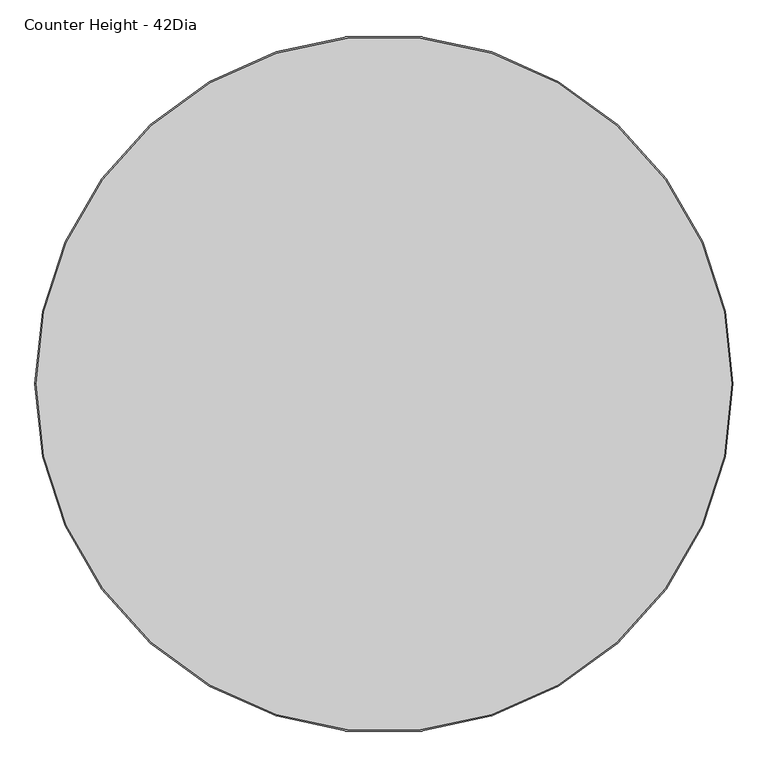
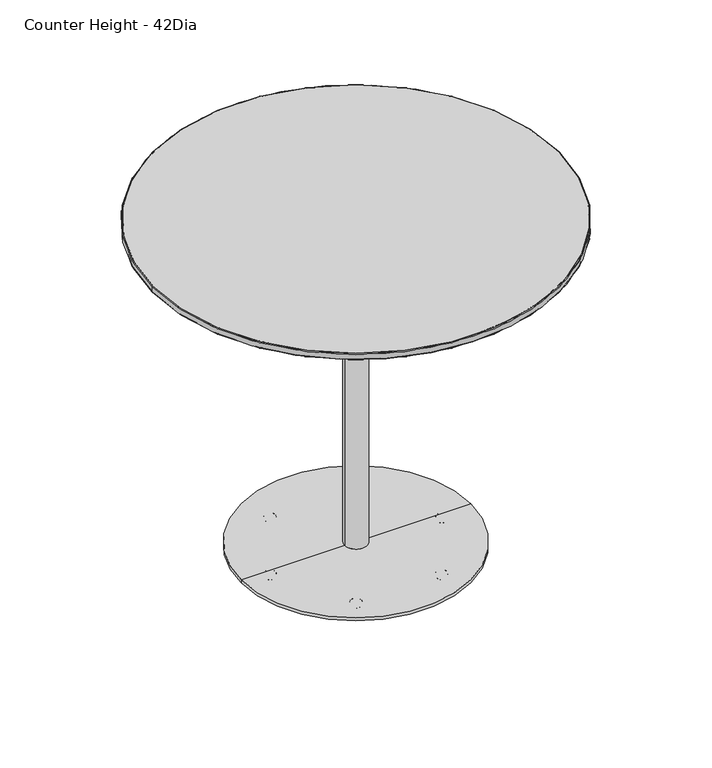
"""IFC4 building model written with IfcOpenShell, lengths in millimetres: furniture geometry, Coalesse_AM_Table_Occasional_Montara650Table_CafeHeight_Round : Counter Height - 42Dia."""

from ifc_helpers import new_model, si_unit, point, frame, origin, origin_with_axes, origin_2d, place, context, project, spatial, polyline, circle_curve, ellipse_curve, trimmed, segment, composite_curve, outline, extrude, source, transform, mapped, element, save
from ifc_brep_helpers import plane_surface, cylinder_surface, revolved_surface, advanced_brep


def counter_height_42dia_a2212860(model_context):
    return source(origin(), model_context, "Body", "SolidModel", [
        advanced_brep(
        [(112.3723043, -195.0325848, 0.0), (119.7149467, -202.3752273, 0.0), (105.0296619, -187.6899424, 0.0), (120.2614489, -202.9217294, 0.5718943), (104.4831597, -187.1434403, 0.5718943), (122.560548, -205.2208285, 11.2068005), (102.1840606, -184.8443412, 11.2068005), (122.1455272, -204.8058077, 11.9999882), (102.5990814, -185.259362, 11.9999882), (112.3723043, -195.0325848, 11.9999882)],
        [
            (0, 1),
            (1, 2, circle_curve(frame((112.3723043, -195.0325848, 0.0), z_axis=(0.0, 0.0, -1.0), x_axis=(0.7071067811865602, -0.7071067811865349, 0.0)), 10.3840645)),
            (2, 0),
            (2, 1, circle_curve(frame((112.3723043, -195.0325848, 0.0), z_axis=(0.0, 0.0, -1.0), x_axis=(0.7071067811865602, -0.7071067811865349, 0.0)), 10.3840645)),
            (1, 3, circle_curve(frame((119.7149467, -202.3752273, 0.8081846), z_axis=(-0.7071067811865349, -0.7071067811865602, 0.0), x_axis=(0.7071067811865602, -0.7071067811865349, 0.0)), 0.8081846)),
            (3, 4, circle_curve(frame((112.3723043, -195.0325848, 0.5718943), z_axis=(0.0, 0.0, -1.0), x_axis=(0.7071067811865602, -0.7071067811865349, 0.0)), 11.1569353)),
            (4, 2, circle_curve(frame((105.0296619, -187.6899424, 0.8081846), z_axis=(-0.7071067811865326, -0.7071067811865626, 0.0), x_axis=(-0.7071067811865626, 0.7071067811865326, 0.0)), 0.8081846)),
            (4, 3, circle_curve(frame((112.3723043, -195.0325848, 0.5718943), z_axis=(0.0, 0.0, -1.0), x_axis=(0.7071067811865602, -0.7071067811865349, 0.0)), 11.1569353)),
            (3, 5),
            (5, 6, circle_curve(frame((112.3723043, -195.0325848, 11.2068005), z_axis=(0.0, 0.0, -1.0), x_axis=(0.7071067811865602, -0.7071067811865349, 0.0)), 14.4083524)),
            (6, 4),
            (6, 5, circle_curve(frame((112.3723043, -195.0325848, 11.2068005), z_axis=(0.0, 0.0, -1.0), x_axis=(0.7071067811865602, -0.7071067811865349, 0.0)), 14.4083524)),
            (5, 7, circle_curve(frame((122.1455272, -204.8058077, 11.3862424), z_axis=(-0.7071067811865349, -0.7071067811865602, 0.0), x_axis=(0.7071067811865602, -0.7071067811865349, 0.0)), 0.6137458)),
            (7, 8, circle_curve(frame((112.3723043, -195.0325848, 11.9999882), z_axis=(0.0, 0.0, -1.0), x_axis=(0.7071067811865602, -0.7071067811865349, 0.0)), 13.8214243)),
            (8, 6, circle_curve(frame((102.5990814, -185.259362, 11.3862424), z_axis=(-0.7071067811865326, -0.7071067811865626, 0.0), x_axis=(-0.7071067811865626, 0.7071067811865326, 0.0)), 0.6137458)),
            (8, 7, circle_curve(frame((112.3723043, -195.0325848, 11.9999882), z_axis=(0.0, 0.0, -1.0), x_axis=(0.7071067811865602, -0.7071067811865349, 0.0)), 13.8214243)),
            (7, 9),
            (9, 8),
        ],
        [
            plane_surface(frame((112.3723043, -195.0325848, 0.0), z_axis=(0.0, 0.0, -1.0000000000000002), x_axis=(0.7071067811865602, -0.7071067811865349, 0.0))),
            revolved_surface(trimmed(ellipse_curve(frame((119.7149467, -202.3752273, 0.8081846), z_axis=(0.7071067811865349, 0.7071067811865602, 0.0), x_axis=(0.7071067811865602, -0.7071067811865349, 0.0)), 0.8081846, 0.8081846), [point((120.2614489, -202.9217294, 0.5718943))], [point((119.7149467, -202.3752273, 0.0))], True, "CARTESIAN"), (112.3723043, -195.0325848, 12.2086845), (0.0, 0.0, -1.0)),
            revolved_surface(polyline([(122.560548, -205.2208285, 11.2068005), (120.2614489, -202.9217294, 0.5718943)]), (112.3723043, -195.0325848, 12.2086845), (0.0, 0.0, -1.0)),
            revolved_surface(trimmed(ellipse_curve(frame((122.1455272, -204.8058077, 11.3862424), z_axis=(0.7071067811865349, 0.7071067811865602, 0.0), x_axis=(0.7071067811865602, -0.7071067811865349, 0.0)), 0.6137458, 0.6137458), [point((122.1455272, -204.8058077, 11.9999882))], [point((122.560548, -205.2208285, 11.2068005))], True, "CARTESIAN"), (112.3723043, -195.0325848, 12.2086845), (0.0, 0.0, -1.0)),
            plane_surface(frame((112.3723043, -195.0325848, 11.9999882), z_axis=(0.0, 0.0, 1.0000000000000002), x_axis=(0.7071067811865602, -0.7071067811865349, 0.0))),
        ],
        [
            (0, [[1, 2, 3]]),
            (0, [[-3, 4, -1]]),
            (1, [[-2, 5, 6, 7]]),
            (1, [[-4, -7, 8, -5]]),
            (2, [[-6, 9, 10, 11]]),
            (2, [[-8, -11, 12, -9]]),
            (3, [[-10, 13, 14, 15]]),
            (3, [[-12, -15, 16, -13]]),
            (4, [[-14, 17, 18]]),
            (4, [[-16, -18, -17]]),
        ],
    ),
        advanced_brep(
        [(-104.9597041, -187.5851027, 0.0), (-119.6449889, -202.2703876, 0.0), (-112.3023465, -194.9277451, 0.0), (-104.4132019, -187.0386006, 0.5718943), (-120.1914911, -202.8168897, 0.5718943), (-102.1141028, -184.7395015, 11.2068005), (-122.4905902, -205.1159888, 11.2068005), (-102.5291236, -185.1545223, 11.9999882), (-122.0755694, -204.700968, 11.9999882), (-112.3023465, -194.9277451, 11.9999882)],
        [
            (0, 1, circle_curve(frame((-112.3023465, -194.9277451, 0.0), z_axis=(0.0, 0.0, -1.0), x_axis=(-0.7071067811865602, -0.7071067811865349, 0.0)), 10.3840645)),
            (1, 2),
            (2, 0),
            (1, 0, circle_curve(frame((-112.3023465, -194.9277451, 0.0), z_axis=(0.0, 0.0, -1.0), x_axis=(-0.7071067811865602, -0.7071067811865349, 0.0)), 10.3840645)),
            (3, 4, circle_curve(frame((-112.3023465, -194.9277451, 0.5718943), z_axis=(0.0, 0.0, -1.0), x_axis=(-0.7071067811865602, -0.7071067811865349, 0.0)), 11.1569353)),
            (4, 1, circle_curve(frame((-119.6449889, -202.2703876, 0.8081846), z_axis=(0.7071067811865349, -0.7071067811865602, 0.0), x_axis=(-0.7071067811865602, -0.7071067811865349, 0.0)), 0.8081846)),
            (0, 3, circle_curve(frame((-104.9597041, -187.5851027, 0.8081846), z_axis=(0.7071067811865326, -0.7071067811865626, 0.0), x_axis=(0.7071067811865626, 0.7071067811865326, 0.0)), 0.8081846)),
            (4, 3, circle_curve(frame((-112.3023465, -194.9277451, 0.5718943), z_axis=(0.0, 0.0, -1.0), x_axis=(-0.7071067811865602, -0.7071067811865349, 0.0)), 11.1569353)),
            (5, 6, circle_curve(frame((-112.3023465, -194.9277451, 11.2068005), z_axis=(0.0, 0.0, -1.0), x_axis=(-0.7071067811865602, -0.7071067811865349, 0.0)), 14.4083524)),
            (6, 4),
            (3, 5),
            (6, 5, circle_curve(frame((-112.3023465, -194.9277451, 11.2068005), z_axis=(0.0, 0.0, -1.0), x_axis=(-0.7071067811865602, -0.7071067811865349, 0.0)), 14.4083524)),
            (7, 8, circle_curve(frame((-112.3023465, -194.9277451, 11.9999882), z_axis=(0.0, 0.0, -1.0), x_axis=(-0.7071067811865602, -0.7071067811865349, 0.0)), 13.8214243)),
            (8, 6, circle_curve(frame((-122.0755694, -204.700968, 11.3862424), z_axis=(0.7071067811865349, -0.7071067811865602, 0.0), x_axis=(-0.7071067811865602, -0.7071067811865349, 0.0)), 0.6137458)),
            (5, 7, circle_curve(frame((-102.5291236, -185.1545223, 11.3862424), z_axis=(0.7071067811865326, -0.7071067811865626, 0.0), x_axis=(0.7071067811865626, 0.7071067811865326, 0.0)), 0.6137458)),
            (8, 7, circle_curve(frame((-112.3023465, -194.9277451, 11.9999882), z_axis=(0.0, 0.0, -1.0), x_axis=(-0.7071067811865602, -0.7071067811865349, 0.0)), 13.8214243)),
            (9, 8),
            (7, 9),
        ],
        [
            plane_surface(frame((-112.3023465, -194.9277451, 0.0), z_axis=(0.0, 0.0, -1.0000000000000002), x_axis=(-0.7071067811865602, -0.7071067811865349, 0.0))),
            revolved_surface(trimmed(ellipse_curve(frame((-119.6449889, -202.2703876, 0.8081846), z_axis=(-0.7071067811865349, 0.7071067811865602, 0.0), x_axis=(-0.7071067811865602, -0.7071067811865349, 0.0)), 0.8081846, 0.8081846), [point((-119.6449889, -202.2703876, 0.0))], [point((-120.1914911, -202.8168897, 0.5718943))], True, "CARTESIAN"), (-112.3023465, -194.9277451, 12.2086845), (0.0, 0.0, 1.0)),
            revolved_surface(polyline([(-120.1914911, -202.8168897, 0.5718943), (-122.4905902, -205.1159888, 11.2068005)]), (-112.3023465, -194.9277451, 12.2086845), (0.0, 0.0, 1.0)),
            revolved_surface(trimmed(ellipse_curve(frame((-122.0755694, -204.700968, 11.3862424), z_axis=(-0.7071067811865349, 0.7071067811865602, 0.0), x_axis=(-0.7071067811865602, -0.7071067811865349, 0.0)), 0.6137458, 0.6137458), [point((-122.4905902, -205.1159888, 11.2068005))], [point((-122.0755694, -204.700968, 11.9999882))], True, "CARTESIAN"), (-112.3023465, -194.9277451, 12.2086845), (0.0, 0.0, 1.0)),
            plane_surface(frame((-112.3023465, -194.9277451, 11.9999882), z_axis=(0.0, 0.0, 1.0000000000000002), x_axis=(-0.7071067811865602, -0.7071067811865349, 0.0))),
        ],
        [
            (0, [[1, 2, 3]]),
            (0, [[4, -3, -2]]),
            (1, [[5, 6, -1, 7]]),
            (1, [[8, -7, -4, -6]]),
            (2, [[9, 10, -5, 11]]),
            (2, [[12, -11, -8, -10]]),
            (3, [[13, 14, -9, 15]]),
            (3, [[16, -15, -12, -14]]),
            (4, [[17, -13, 18]]),
            (4, [[-18, -16, -17]]),
        ],
    ),
        advanced_brep(
        [(-112.055175, -184.4898776, 0.0), (-112.055175, -205.2580066, 0.0), (-112.055175, -194.8739421, 0.0), (-112.055175, -183.7170068, 0.5718943), (-112.055175, -206.0308773, 0.5718943), (-112.055175, -180.4655897, 11.2068005), (-112.055175, -209.2822944, 11.2068005), (-112.055175, -181.0525177, 11.9999882), (-112.055175, -208.6953664, 11.9999882), (-112.055175, -194.8739421, 11.9999882)],
        [
            (0, 1, circle_curve(frame((-112.055175, -194.8739421, 0.0), z_axis=(0.0, 0.0, -1.0), x_axis=(0.0, -1.0, 0.0)), 10.3840645)),
            (1, 2),
            (2, 0),
            (1, 0, circle_curve(frame((-112.055175, -194.8739421, 0.0), z_axis=(0.0, 0.0, -1.0), x_axis=(0.0, -1.0, 0.0)), 10.3840645)),
            (3, 4, circle_curve(frame((-112.055175, -194.8739421, 0.5718943), z_axis=(0.0, 0.0, -1.0), x_axis=(0.0, -1.0, 0.0)), 11.1569353)),
            (4, 1, circle_curve(frame((-112.055175, -205.2580066, 0.8081846), z_axis=(1.0, 0.0, 0.0), x_axis=(0.0, -1.0, 0.0)), 0.8081846)),
            (0, 3, circle_curve(frame((-112.055175, -184.4898776, 0.8081846), z_axis=(1.0, 0.0, 0.0), x_axis=(0.0, 1.0, 0.0)), 0.8081846)),
            (4, 3, circle_curve(frame((-112.055175, -194.8739421, 0.5718943), z_axis=(0.0, 0.0, -1.0), x_axis=(0.0, -1.0, 0.0)), 11.1569353)),
            (5, 6, circle_curve(frame((-112.055175, -194.8739421, 11.2068005), z_axis=(0.0, 0.0, -1.0), x_axis=(0.0, -1.0, 0.0)), 14.4083524)),
            (6, 4),
            (3, 5),
            (6, 5, circle_curve(frame((-112.055175, -194.8739421, 11.2068005), z_axis=(0.0, 0.0, -1.0), x_axis=(0.0, -1.0, 0.0)), 14.4083524)),
            (7, 8, circle_curve(frame((-112.055175, -194.8739421, 11.9999882), z_axis=(0.0, 0.0, -1.0), x_axis=(0.0, -1.0, 0.0)), 13.8214243)),
            (8, 6, circle_curve(frame((-112.055175, -208.6953664, 11.3862424), z_axis=(1.0, 0.0, 0.0), x_axis=(0.0, -1.0, 0.0)), 0.6137458)),
            (5, 7, circle_curve(frame((-112.055175, -181.0525177, 11.3862424), z_axis=(1.0, 0.0, 0.0), x_axis=(0.0, 1.0, 0.0)), 0.6137458)),
            (8, 7, circle_curve(frame((-112.055175, -194.8739421, 11.9999882), z_axis=(0.0, 0.0, -1.0), x_axis=(0.0, -1.0, 0.0)), 13.8214243)),
            (9, 8),
            (7, 9),
        ],
        [
            plane_surface(frame((-112.055175, -194.8739421, 0.0), z_axis=(0.0, 0.0, -1.0), x_axis=(0.0, -1.0, 0.0))),
            revolved_surface(trimmed(ellipse_curve(frame((-112.055175, -205.2580066, 0.8081846), z_axis=(-1.0, 0.0, 0.0), x_axis=(0.0, -1.0, 0.0)), 0.8081846, 0.8081846), [point((-112.055175, -205.2580066, 0.0))], [point((-112.055175, -206.0308773, 0.5718943))], True, "CARTESIAN"), (-112.055175, -194.8739421, 12.2086845), (0.0, 0.0, 1.0)),
            revolved_surface(polyline([(-112.055175, -206.0308773, 0.5718943), (-112.055175, -209.2822944, 11.2068005)]), (-112.055175, -194.8739421, 12.2086845), (0.0, 0.0, 1.0)),
            revolved_surface(trimmed(ellipse_curve(frame((-112.055175, -208.6953664, 11.3862424), z_axis=(-1.0, 0.0, 0.0), x_axis=(0.0, -1.0, 0.0)), 0.6137458, 0.6137458), [point((-112.055175, -209.2822944, 11.2068005))], [point((-112.055175, -208.6953664, 11.9999882))], True, "CARTESIAN"), (-112.055175, -194.8739421, 12.2086845), (0.0, 0.0, 1.0)),
            plane_surface(frame((-112.055175, -194.8739421, 11.9999882), z_axis=(0.0, 0.0, 1.0), x_axis=(0.0, -1.0, 0.0))),
        ],
        [
            (0, [[1, 2, 3]]),
            (0, [[4, -3, -2]]),
            (1, [[5, 6, -1, 7]]),
            (1, [[8, -7, -4, -6]]),
            (2, [[9, 10, -5, 11]]),
            (2, [[12, -11, -8, -10]]),
            (3, [[13, 14, -9, 15]]),
            (3, [[16, -15, -12, -14]]),
            (4, [[17, -13, 18]]),
            (4, [[-18, -16, -17]]),
        ],
    ),
        advanced_brep(
        [(214.9060746, 0.0, 0.0), (235.6742036, 0.0, 0.0), (225.2901391, 0.0, 0.0), (214.1332039, 0.0, 0.5718943), (236.4470744, 0.0, 0.5718943), (210.8817867, 0.0, 11.2068005), (239.6984915, 0.0, 11.2068005), (211.4687148, 0.0, 11.9999882), (239.1115635, 0.0, 11.9999882), (225.2901391, 0.0, 11.9999882)],
        [
            (0, 1, circle_curve(frame((225.2901391, 0.0, 0.0), z_axis=(0.0, 0.0, -1.0), x_axis=(1.0, 0.0, 0.0)), 10.3840645)),
            (1, 2),
            (2, 0),
            (1, 0, circle_curve(frame((225.2901391, 0.0, 0.0), z_axis=(0.0, 0.0, -1.0), x_axis=(1.0, 0.0, 0.0)), 10.3840645)),
            (3, 4, circle_curve(frame((225.2901391, 0.0, 0.5718943), z_axis=(0.0, 0.0, -1.0), x_axis=(1.0, 0.0, 0.0)), 11.1569353)),
            (4, 1, circle_curve(frame((235.6742036, 0.0, 0.8081846), z_axis=(0.0, 1.0, 0.0), x_axis=(1.0, 0.0, 0.0)), 0.8081846)),
            (0, 3, circle_curve(frame((214.9060746, 0.0, 0.8081846), z_axis=(0.0, 1.0, 0.0), x_axis=(-1.0, 0.0, 0.0)), 0.8081846)),
            (4, 3, circle_curve(frame((225.2901391, 0.0, 0.5718943), z_axis=(0.0, 0.0, -1.0), x_axis=(1.0, 0.0, 0.0)), 11.1569353)),
            (5, 6, circle_curve(frame((225.2901391, 0.0, 11.2068005), z_axis=(0.0, 0.0, -1.0), x_axis=(1.0, 0.0, 0.0)), 14.4083524)),
            (6, 4),
            (3, 5),
            (6, 5, circle_curve(frame((225.2901391, 0.0, 11.2068005), z_axis=(0.0, 0.0, -1.0), x_axis=(1.0, 0.0, 0.0)), 14.4083524)),
            (7, 8, circle_curve(frame((225.2901391, 0.0, 11.9999882), z_axis=(0.0, 0.0, -1.0), x_axis=(1.0, 0.0, 0.0)), 13.8214243)),
            (8, 6, circle_curve(frame((239.1115635, 0.0, 11.3862424), z_axis=(0.0, 1.0, 0.0), x_axis=(1.0, 0.0, 0.0)), 0.6137458)),
            (5, 7, circle_curve(frame((211.4687148, 0.0, 11.3862424), z_axis=(0.0, 1.0, 0.0), x_axis=(-1.0, 0.0, 0.0)), 0.6137458)),
            (8, 7, circle_curve(frame((225.2901391, 0.0, 11.9999882), z_axis=(0.0, 0.0, -1.0), x_axis=(1.0, 0.0, 0.0)), 13.8214243)),
            (9, 8),
            (7, 9),
        ],
        [
            plane_surface(frame((225.2901391, 0.0, 0.0), z_axis=(0.0, 0.0, -1.0), x_axis=(1.0, 0.0, 0.0))),
            revolved_surface(trimmed(ellipse_curve(frame((235.6742036, 0.0, 0.8081846), z_axis=(0.0, -1.0, 0.0), x_axis=(1.0, 0.0, 0.0)), 0.8081846, 0.8081846), [point((235.6742036, 0.0, 0.0))], [point((236.4470744, 0.0, 0.5718943))], True, "CARTESIAN"), (225.2901391, 0.0, 12.2086845), (0.0, 0.0, 1.0)),
            revolved_surface(polyline([(236.4470744, 0.0, 0.5718943), (239.6984915, 0.0, 11.2068005)]), (225.2901391, 0.0, 12.2086845), (0.0, 0.0, 1.0)),
            revolved_surface(trimmed(ellipse_curve(frame((239.1115635, 0.0, 11.3862424), z_axis=(0.0, -1.0, 0.0), x_axis=(1.0, 0.0, 0.0)), 0.6137458, 0.6137458), [point((239.6984915, 0.0, 11.2068005))], [point((239.1115635, 0.0, 11.9999882))], True, "CARTESIAN"), (225.2901391, 0.0, 12.2086845), (0.0, 0.0, 1.0)),
            plane_surface(frame((225.2901391, 0.0, 11.9999882), z_axis=(0.0, 0.0, 1.0), x_axis=(1.0, 0.0, 0.0))),
        ],
        [
            (0, [[1, 2, 3]]),
            (0, [[4, -3, -2]]),
            (1, [[5, 6, -1, 7]]),
            (1, [[8, -7, -4, -6]]),
            (2, [[9, 10, -5, 11]]),
            (2, [[12, -11, -8, -10]]),
            (3, [[13, 14, -9, 15]]),
            (3, [[16, -15, -12, -14]]),
            (4, [[17, -13, 18]]),
            (4, [[-18, -16, -17]]),
        ],
    ),
        advanced_brep(
        [(102.9986415, 175.7657839, 0.0), (117.6839264, 190.4510688, 0.0), (110.341284, 183.1084263, 0.0), (102.4521394, 175.2192818, 0.5718943), (118.2304285, 190.9975709, 0.5718943), (100.1530403, 172.9201827, 11.2068005), (120.5295276, 193.29667, 11.2068005), (100.5680611, 173.3352035, 11.9999882), (120.1145068, 192.8816492, 11.9999882), (110.341284, 183.1084263, 11.9999882)],
        [
            (0, 1, circle_curve(frame((110.341284, 183.1084263, 0.0), z_axis=(0.0, 0.0, -1.0), x_axis=(0.7071067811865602, 0.7071067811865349, 0.0)), 10.3840645)),
            (1, 2),
            (2, 0),
            (1, 0, circle_curve(frame((110.341284, 183.1084263, 0.0), z_axis=(0.0, 0.0, -1.0), x_axis=(0.7071067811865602, 0.7071067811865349, 0.0)), 10.3840645)),
            (3, 4, circle_curve(frame((110.341284, 183.1084263, 0.5718943), z_axis=(0.0, 0.0, -1.0), x_axis=(0.7071067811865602, 0.7071067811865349, 0.0)), 11.1569353)),
            (4, 1, circle_curve(frame((117.6839264, 190.4510688, 0.8081846), z_axis=(-0.7071067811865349, 0.7071067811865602, 0.0), x_axis=(0.7071067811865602, 0.7071067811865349, 0.0)), 0.8081846)),
            (0, 3, circle_curve(frame((102.9986415, 175.7657839, 0.8081846), z_axis=(-0.7071067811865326, 0.7071067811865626, 0.0), x_axis=(-0.7071067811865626, -0.7071067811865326, 0.0)), 0.8081846)),
            (4, 3, circle_curve(frame((110.341284, 183.1084263, 0.5718943), z_axis=(0.0, 0.0, -1.0), x_axis=(0.7071067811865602, 0.7071067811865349, 0.0)), 11.1569353)),
            (5, 6, circle_curve(frame((110.341284, 183.1084263, 11.2068005), z_axis=(0.0, 0.0, -1.0), x_axis=(0.7071067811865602, 0.7071067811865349, 0.0)), 14.4083524)),
            (6, 4),
            (3, 5),
            (6, 5, circle_curve(frame((110.341284, 183.1084263, 11.2068005), z_axis=(0.0, 0.0, -1.0), x_axis=(0.7071067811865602, 0.7071067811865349, 0.0)), 14.4083524)),
            (7, 8, circle_curve(frame((110.341284, 183.1084263, 11.9999882), z_axis=(0.0, 0.0, -1.0), x_axis=(0.7071067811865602, 0.7071067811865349, 0.0)), 13.8214243)),
            (8, 6, circle_curve(frame((120.1145068, 192.8816492, 11.3862424), z_axis=(-0.7071067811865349, 0.7071067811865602, 0.0), x_axis=(0.7071067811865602, 0.7071067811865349, 0.0)), 0.6137458)),
            (5, 7, circle_curve(frame((100.5680611, 173.3352035, 11.3862424), z_axis=(-0.7071067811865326, 0.7071067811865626, 0.0), x_axis=(-0.7071067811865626, -0.7071067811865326, 0.0)), 0.6137458)),
            (8, 7, circle_curve(frame((110.341284, 183.1084263, 11.9999882), z_axis=(0.0, 0.0, -1.0), x_axis=(0.7071067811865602, 0.7071067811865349, 0.0)), 13.8214243)),
            (9, 8),
            (7, 9),
        ],
        [
            plane_surface(frame((110.341284, 183.1084263, 0.0), z_axis=(0.0, 0.0, -1.0000000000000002), x_axis=(0.7071067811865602, 0.7071067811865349, 0.0))),
            revolved_surface(trimmed(ellipse_curve(frame((117.6839264, 190.4510688, 0.8081846), z_axis=(0.7071067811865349, -0.7071067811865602, 0.0), x_axis=(0.7071067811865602, 0.7071067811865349, 0.0)), 0.8081846, 0.8081846), [point((117.6839264, 190.4510688, 0.0))], [point((118.2304285, 190.9975709, 0.5718943))], True, "CARTESIAN"), (110.341284, 183.1084263, 12.2086845), (0.0, 0.0, 1.0)),
            revolved_surface(polyline([(118.2304285, 190.9975709, 0.5718943), (120.5295276, 193.29667, 11.2068005)]), (110.341284, 183.1084263, 12.2086845), (0.0, 0.0, 1.0)),
            revolved_surface(trimmed(ellipse_curve(frame((120.1145068, 192.8816492, 11.3862424), z_axis=(0.7071067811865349, -0.7071067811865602, 0.0), x_axis=(0.7071067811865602, 0.7071067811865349, 0.0)), 0.6137458, 0.6137458), [point((120.5295276, 193.29667, 11.2068005))], [point((120.1145068, 192.8816492, 11.9999882))], True, "CARTESIAN"), (110.341284, 183.1084263, 12.2086845), (0.0, 0.0, 1.0)),
            plane_surface(frame((110.341284, 183.1084263, 11.9999882), z_axis=(0.0, 0.0, 1.0000000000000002), x_axis=(0.7071067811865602, 0.7071067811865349, 0.0))),
        ],
        [
            (0, [[1, 2, 3]]),
            (0, [[4, -3, -2]]),
            (1, [[5, 6, -1, 7]]),
            (1, [[8, -7, -4, -6]]),
            (2, [[9, 10, -5, 11]]),
            (2, [[12, -11, -8, -10]]),
            (3, [[13, 14, -9, 15]]),
            (3, [[16, -15, -12, -14]]),
            (4, [[17, -13, 18]]),
            (4, [[-18, -16, -17]]),
        ],
    ),
        advanced_brep(
        [(-112.5027991, 194.9473484, 0.0), (-119.8454415, 202.2899909, 0.0), (-105.1601566, 187.604706, 0.0), (-120.3919436, 202.836493, 0.5718943), (-104.6136545, 187.0582039, 0.5718943), (-122.6910427, 205.1355921, 11.2068005), (-102.3145554, 184.7591048, 11.2068005), (-122.2760219, 204.7205713, 11.9999882), (-102.7295762, 185.1741256, 11.9999882), (-112.5027991, 194.9473484, 11.9999882)],
        [
            (0, 1),
            (1, 2, circle_curve(frame((-112.5027991, 194.9473484, 0.0), z_axis=(0.0, 0.0, -1.0), x_axis=(-0.7071067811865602, 0.7071067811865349, 0.0)), 10.3840645)),
            (2, 0),
            (2, 1, circle_curve(frame((-112.5027991, 194.9473484, 0.0), z_axis=(0.0, 0.0, -1.0), x_axis=(-0.7071067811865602, 0.7071067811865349, 0.0)), 10.3840645)),
            (1, 3, circle_curve(frame((-119.8454415, 202.2899909, 0.8081846), z_axis=(0.7071067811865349, 0.7071067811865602, 0.0), x_axis=(-0.7071067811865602, 0.7071067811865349, 0.0)), 0.8081846)),
            (3, 4, circle_curve(frame((-112.5027991, 194.9473484, 0.5718943), z_axis=(0.0, 0.0, -1.0), x_axis=(-0.7071067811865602, 0.7071067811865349, 0.0)), 11.1569353)),
            (4, 2, circle_curve(frame((-105.1601566, 187.604706, 0.8081846), z_axis=(0.7071067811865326, 0.7071067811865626, 0.0), x_axis=(0.7071067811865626, -0.7071067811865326, 0.0)), 0.8081846)),
            (4, 3, circle_curve(frame((-112.5027991, 194.9473484, 0.5718943), z_axis=(0.0, 0.0, -1.0), x_axis=(-0.7071067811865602, 0.7071067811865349, 0.0)), 11.1569353)),
            (3, 5),
            (5, 6, circle_curve(frame((-112.5027991, 194.9473484, 11.2068005), z_axis=(0.0, 0.0, -1.0), x_axis=(-0.7071067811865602, 0.7071067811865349, 0.0)), 14.4083524)),
            (6, 4),
            (6, 5, circle_curve(frame((-112.5027991, 194.9473484, 11.2068005), z_axis=(0.0, 0.0, -1.0), x_axis=(-0.7071067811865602, 0.7071067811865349, 0.0)), 14.4083524)),
            (5, 7, circle_curve(frame((-122.2760219, 204.7205713, 11.3862424), z_axis=(0.7071067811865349, 0.7071067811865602, 0.0), x_axis=(-0.7071067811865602, 0.7071067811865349, 0.0)), 0.6137458)),
            (7, 8, circle_curve(frame((-112.5027991, 194.9473484, 11.9999882), z_axis=(0.0, 0.0, -1.0), x_axis=(-0.7071067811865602, 0.7071067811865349, 0.0)), 13.8214243)),
            (8, 6, circle_curve(frame((-102.7295762, 185.1741256, 11.3862424), z_axis=(0.7071067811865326, 0.7071067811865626, 0.0), x_axis=(0.7071067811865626, -0.7071067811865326, 0.0)), 0.6137458)),
            (8, 7, circle_curve(frame((-112.5027991, 194.9473484, 11.9999882), z_axis=(0.0, 0.0, -1.0), x_axis=(-0.7071067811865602, 0.7071067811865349, 0.0)), 13.8214243)),
            (7, 9),
            (9, 8),
        ],
        [
            plane_surface(frame((-112.5027991, 194.9473484, 0.0), z_axis=(0.0, 0.0, -1.0000000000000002), x_axis=(-0.7071067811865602, 0.7071067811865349, 0.0))),
            revolved_surface(trimmed(ellipse_curve(frame((-119.8454415, 202.2899909, 0.8081846), z_axis=(-0.7071067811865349, -0.7071067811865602, 0.0), x_axis=(-0.7071067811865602, 0.7071067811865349, 0.0)), 0.8081846, 0.8081846), [point((-120.3919436, 202.836493, 0.5718943))], [point((-119.8454415, 202.2899909, 0.0))], True, "CARTESIAN"), (-112.5027991, 194.9473484, 12.2086845), (0.0, 0.0, -1.0)),
            revolved_surface(polyline([(-122.6910427, 205.1355921, 11.2068005), (-120.3919436, 202.836493, 0.5718943)]), (-112.5027991, 194.9473484, 12.2086845), (0.0, 0.0, -1.0)),
            revolved_surface(trimmed(ellipse_curve(frame((-122.2760219, 204.7205713, 11.3862424), z_axis=(-0.7071067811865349, -0.7071067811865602, 0.0), x_axis=(-0.7071067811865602, 0.7071067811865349, 0.0)), 0.6137458, 0.6137458), [point((-122.2760219, 204.7205713, 11.9999882))], [point((-122.6910427, 205.1355921, 11.2068005))], True, "CARTESIAN"), (-112.5027991, 194.9473484, 12.2086845), (0.0, 0.0, -1.0)),
            plane_surface(frame((-112.5027991, 194.9473484, 11.9999882), z_axis=(0.0, 0.0, 1.0000000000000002), x_axis=(-0.7071067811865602, 0.7071067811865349, 0.0))),
        ],
        [
            (0, [[1, 2, 3]]),
            (0, [[-3, 4, -1]]),
            (1, [[-2, 5, 6, 7]]),
            (1, [[-4, -7, 8, -5]]),
            (2, [[-6, 9, 10, 11]]),
            (2, [[-8, -11, 12, -9]]),
            (3, [[-10, 13, 14, 15]]),
            (3, [[-12, -15, 16, -13]]),
            (4, [[-14, 17, 18]]),
            (4, [[-16, -18, -17]]),
        ],
    ),
        advanced_brep(
        [(-225.0355893, 0.0, 0.0), (-235.4196538, 0.0, 0.0), (-214.6515248, 0.0, 0.0), (-236.1925246, 0.0, 0.5718943), (-213.8786541, 0.0, 0.5718943), (-239.4439417, 0.0, 11.2068005), (-210.6272369, 0.0, 11.2068005), (-238.8570136, 0.0, 11.9999882), (-211.214165, 0.0, 11.9999882), (-225.0355893, 0.0, 11.9999882)],
        [
            (0, 1),
            (1, 2, circle_curve(frame((-225.0355893, 0.0, 0.0), z_axis=(0.0, 0.0, -1.0), x_axis=(-1.0, 0.0, 0.0)), 10.3840645)),
            (2, 0),
            (2, 1, circle_curve(frame((-225.0355893, 0.0, 0.0), z_axis=(0.0, 0.0, -1.0), x_axis=(-1.0, 0.0, 0.0)), 10.3840645)),
            (1, 3, circle_curve(frame((-235.4196538, 0.0, 0.8081846), z_axis=(0.0, 1.0, 0.0), x_axis=(-1.0, 0.0, 0.0)), 0.8081846)),
            (3, 4, circle_curve(frame((-225.0355893, 0.0, 0.5718943), z_axis=(0.0, 0.0, -1.0), x_axis=(-1.0, 0.0, 0.0)), 11.1569353)),
            (4, 2, circle_curve(frame((-214.6515248, 0.0, 0.8081846), z_axis=(0.0, 1.0, 0.0), x_axis=(1.0, 0.0, 0.0)), 0.8081846)),
            (4, 3, circle_curve(frame((-225.0355893, 0.0, 0.5718943), z_axis=(0.0, 0.0, -1.0), x_axis=(-1.0, 0.0, 0.0)), 11.1569353)),
            (3, 5),
            (5, 6, circle_curve(frame((-225.0355893, 0.0, 11.2068005), z_axis=(0.0, 0.0, -1.0), x_axis=(-1.0, 0.0, 0.0)), 14.4083524)),
            (6, 4),
            (6, 5, circle_curve(frame((-225.0355893, 0.0, 11.2068005), z_axis=(0.0, 0.0, -1.0), x_axis=(-1.0, 0.0, 0.0)), 14.4083524)),
            (5, 7, circle_curve(frame((-238.8570136, 0.0, 11.3862424), z_axis=(0.0, 1.0, 0.0), x_axis=(-1.0, 0.0, 0.0)), 0.6137458)),
            (7, 8, circle_curve(frame((-225.0355893, 0.0, 11.9999882), z_axis=(0.0, 0.0, -1.0), x_axis=(-1.0, 0.0, 0.0)), 13.8214243)),
            (8, 6, circle_curve(frame((-211.214165, 0.0, 11.3862424), z_axis=(0.0, 1.0, 0.0), x_axis=(1.0, 0.0, 0.0)), 0.6137458)),
            (8, 7, circle_curve(frame((-225.0355893, 0.0, 11.9999882), z_axis=(0.0, 0.0, -1.0), x_axis=(-1.0, 0.0, 0.0)), 13.8214243)),
            (7, 9),
            (9, 8),
        ],
        [
            plane_surface(frame((-225.0355893, 0.0, 0.0), z_axis=(0.0, 0.0, -1.0), x_axis=(-1.0, 0.0, 0.0))),
            revolved_surface(trimmed(ellipse_curve(frame((-235.4196538, 0.0, 0.8081846), z_axis=(0.0, -1.0, 0.0), x_axis=(-1.0, 0.0, 0.0)), 0.8081846, 0.8081846), [point((-236.1925246, 0.0, 0.5718943))], [point((-235.4196538, 0.0, 0.0))], True, "CARTESIAN"), (-225.0355893, 0.0, 12.2086845), (0.0, 0.0, -1.0)),
            revolved_surface(polyline([(-239.4439417, 0.0, 11.2068005), (-236.1925246, 0.0, 0.5718943)]), (-225.0355893, 0.0, 12.2086845), (0.0, 0.0, -1.0)),
            revolved_surface(trimmed(ellipse_curve(frame((-238.8570136, 0.0, 11.3862424), z_axis=(0.0, -1.0, 0.0), x_axis=(-1.0, 0.0, 0.0)), 0.6137458, 0.6137458), [point((-238.8570136, 0.0, 11.9999882))], [point((-239.4439417, 0.0, 11.2068005))], True, "CARTESIAN"), (-225.0355893, 0.0, 12.2086845), (0.0, 0.0, -1.0)),
            plane_surface(frame((-225.0355893, 0.0, 11.9999882), z_axis=(0.0, 0.0, 1.0), x_axis=(-1.0, 0.0, 0.0))),
        ],
        [
            (0, [[1, 2, 3]]),
            (0, [[-3, 4, -1]]),
            (1, [[-2, 5, 6, 7]]),
            (1, [[-4, -7, 8, -5]]),
            (2, [[-6, 9, 10, 11]]),
            (2, [[-8, -11, 12, -9]]),
            (3, [[-10, 13, 14, 15]]),
            (3, [[-12, -15, 16, -13]]),
            (4, [[-14, 17, 18]]),
            (4, [[-16, -18, -17]]),
        ],
    ),
        advanced_brep(
        [(131.5995255, 0.0, 881.255027), (-131.5995255, 0.0, 881.255027), (-176.076473, 0.0, 881.255027), (176.076473, 0.0, 881.255027), (38.8356016, 0.0, 864.6899529), (-38.8356016, 0.0, 864.6899529), (-47.6092868, 0.0, 864.6899529), (47.6092868, 0.0, 864.6899529), (29.5495828, 0.0, 19.9999965), (-29.5495828, 0.0, 19.9999965), (-29.5495828, 0.0, 877.2852036), (29.5495828, 0.0, 877.2852036), (301.0967005, 0.0, 19.9999965), (-301.0967005, 0.0, 19.9999965), (301.0967005, 0.0, 11.9999882), (-301.0967005, 0.0, 11.9999882), (0.0, 0.0, 11.9999882), (176.076473, 0.0, 884.430027), (-176.076473, 0.0, 884.430027), (0.0, 0.0, 884.430027), (32.5573587, 0.0, 866.9383874), (-32.5573587, 0.0, 866.9383874), (30.918584, 0.0, 877.2852036), (-30.918584, 0.0, 877.2852036)],
        [
            (0, 1, circle_curve(frame((0.0, 0.0, 881.255027), z_axis=(0.0, 0.0, 1.0), x_axis=(-1.0, 0.0, 0.0)), 131.5995255)),
            (1, 2),
            (2, 3, circle_curve(frame((0.0, 0.0, 881.255027), z_axis=(0.0, 0.0, -1.0), x_axis=(-1.0, 0.0, 0.0)), 176.076473)),
            (3, 0),
            (1, 0, circle_curve(frame((0.0, 0.0, 881.255027), z_axis=(0.0, 0.0, 1.0), x_axis=(-1.0, 0.0, 0.0)), 131.5995255)),
            (3, 2, circle_curve(frame((0.0, 0.0, 881.255027), z_axis=(0.0, 0.0, -1.0), x_axis=(-1.0, 0.0, 0.0)), 176.076473)),
            (4, 5, circle_curve(frame((0.0, 0.0, 864.6899529), z_axis=(0.0, 0.0, 1.0), x_axis=(-1.0, 0.0, 0.0)), 38.8356016)),
            (5, 6),
            (6, 7, circle_curve(frame((0.0, 0.0, 864.6899529), z_axis=(0.0, 0.0, -1.0), x_axis=(-1.0, 0.0, 0.0)), 47.6092868)),
            (7, 4),
            (5, 4, circle_curve(frame((0.0, 0.0, 864.6899529), z_axis=(0.0, 0.0, 1.0), x_axis=(-1.0, 0.0, 0.0)), 38.8356016)),
            (7, 6, circle_curve(frame((0.0, 0.0, 864.6899529), z_axis=(0.0, 0.0, -1.0), x_axis=(-1.0, 0.0, 0.0)), 47.6092868)),
            (8, 9, circle_curve(frame((0.0, 0.0, 19.9999965), z_axis=(0.0, 0.0, 1.0), x_axis=(-1.0, 0.0, 0.0)), 29.5495828)),
            (9, 10),
            (10, 11, circle_curve(frame((0.0, 0.0, 877.2852036), z_axis=(0.0, 0.0, -1.0), x_axis=(-1.0, 0.0, 0.0)), 29.5495828)),
            (11, 8),
            (9, 8, circle_curve(frame((0.0, 0.0, 19.9999965), z_axis=(0.0, 0.0, 1.0), x_axis=(-1.0, 0.0, 0.0)), 29.5495828)),
            (11, 10, circle_curve(frame((0.0, 0.0, 877.2852036), z_axis=(0.0, 0.0, -1.0), x_axis=(-1.0, 0.0, 0.0)), 29.5495828)),
            (12, 13, circle_curve(frame((0.0, 0.0, 19.9999965), z_axis=(0.0, 0.0, 1.0), x_axis=(-1.0, 0.0, 0.0)), 301.0967005)),
            (13, 9),
            (8, 12),
            (13, 12, circle_curve(frame((0.0, 0.0, 19.9999965), z_axis=(0.0, 0.0, 1.0), x_axis=(-1.0, 0.0, 0.0)), 301.0967005)),
            (14, 15, circle_curve(frame((0.0, 0.0, 11.9999882), z_axis=(0.0, 0.0, 1.0), x_axis=(-1.0, 0.0, 0.0)), 301.0967005)),
            (15, 13),
            (12, 14),
            (15, 14, circle_curve(frame((0.0, 0.0, 11.9999882), z_axis=(0.0, 0.0, 1.0), x_axis=(-1.0, 0.0, 0.0)), 301.0967005)),
            (16, 15),
            (14, 16),
            (17, 18, circle_curve(frame((0.0, 0.0, 884.430027), z_axis=(0.0, 0.0, 1.0), x_axis=(-1.0, 0.0, 0.0)), 176.076473)),
            (18, 19),
            (19, 17),
            (18, 17, circle_curve(frame((0.0, 0.0, 884.430027), z_axis=(0.0, 0.0, 1.0), x_axis=(-1.0, 0.0, 0.0)), 176.076473)),
            (2, 18),
            (17, 3),
            (20, 21, circle_curve(frame((0.0, 0.0, 866.9383874), z_axis=(0.0, 0.0, 1.0), x_axis=(-1.0, 0.0, 0.0)), 32.5573587)),
            (21, 5),
            (4, 20),
            (21, 20, circle_curve(frame((0.0, 0.0, 866.9383874), z_axis=(0.0, 0.0, 1.0), x_axis=(-1.0, 0.0, 0.0)), 32.5573587)),
            (22, 23, circle_curve(frame((0.0, 0.0, 877.2852036), z_axis=(0.0, 0.0, 1.0), x_axis=(-1.0, 0.0, 0.0)), 30.918584)),
            (23, 21),
            (20, 22),
            (23, 22, circle_curve(frame((0.0, 0.0, 877.2852036), z_axis=(0.0, 0.0, 1.0), x_axis=(-1.0, 0.0, 0.0)), 30.918584)),
            (10, 23),
            (22, 11),
            (6, 1),
            (0, 7),
        ],
        [
            plane_surface(frame((0.0, 0.0, 881.255027), z_axis=(0.0, 0.0, -1.0), x_axis=(-1.0, 0.0, 0.0))),
            plane_surface(frame((0.0, 0.0, 864.6899529), z_axis=(0.0, 0.0, -1.0), x_axis=(-1.0, 0.0, 0.0))),
            cylinder_surface(frame((0.0, 0.0, 629.5999965), z_axis=(0.0, 0.0, -1.0), x_axis=(-1.0, 0.0, 0.0)), 29.5495828),
            plane_surface(frame((0.0, 0.0, 19.9999965), z_axis=(0.0, 0.0, 1.0), x_axis=(-1.0, 0.0, 0.0))),
            cylinder_surface(frame((0.0, 0.0, 629.5999965), z_axis=(0.0, 0.0, -1.0), x_axis=(-1.0, 0.0, 0.0)), 301.0967005),
            plane_surface(frame((0.0, 0.0, 11.9999882), z_axis=(0.0, 0.0, -1.0), x_axis=(-1.0, 0.0, 0.0))),
            plane_surface(frame((0.0, 0.0, 884.430027), z_axis=(0.0, 0.0, 1.0), x_axis=(-1.0, 0.0, 0.0))),
            cylinder_surface(frame((0.0, 0.0, 629.5999965), z_axis=(0.0, 0.0, -1.0), x_axis=(-1.0, 0.0, 0.0)), 176.076473),
            revolved_surface(polyline([(-38.8356016, 0.0, 864.6899529), (-32.5573587, 0.0, 866.9383874)]), (0.0, 0.0, 629.5999965), (0.0, 0.0, -1.0)),
            revolved_surface(polyline([(-32.5573587, 0.0, 866.9383874), (-30.918584, 0.0, 877.2852036)]), (0.0, 0.0, 629.5999965), (0.0, 0.0, -1.0)),
            plane_surface(frame((0.0, 0.0, 877.2852036), z_axis=(0.0, 0.0, -1.0), x_axis=(-1.0, 0.0, 0.0))),
            revolved_surface(polyline([(-131.5995255, 0.0, 881.255027), (-47.6092868, 0.0, 864.6899529)]), (0.0, 0.0, 629.5999965), (0.0, 0.0, -1.0)),
        ],
        [
            (0, [[1, 2, 3, 4]]),
            (0, [[5, -4, 6, -2]]),
            (1, [[7, 8, 9, 10]]),
            (1, [[11, -10, 12, -8]]),
            (2, [[13, 14, 15, 16]]),
            (2, [[17, -16, 18, -14]]),
            (3, [[19, 20, -13, 21]]),
            (3, [[22, -21, -17, -20]]),
            (4, [[23, 24, -19, 25]]),
            (4, [[26, -25, -22, -24]]),
            (5, [[27, -23, 28]]),
            (5, [[-28, -26, -27]]),
            (6, [[29, 30, 31]]),
            (6, [[32, -31, -30]]),
            (7, [[-3, 33, -29, 34]]),
            (7, [[-6, -34, -32, -33]]),
            (8, [[35, 36, -7, 37]]),
            (8, [[38, -37, -11, -36]]),
            (9, [[39, 40, -35, 41]]),
            (9, [[42, -41, -38, -40]]),
            (10, [[-15, 43, -39, 44]]),
            (10, [[-18, -44, -42, -43]]),
            (11, [[-9, 45, -1, 46]]),
            (11, [[-12, -46, -5, -45]]),
        ],
    ),
        advanced_brep(
        [(-467.868, 0.0, 884.430027), (467.868, 0.0, 884.430027), (-531.368, 0.0, 896.695891), (531.368, 0.0, 896.695891)],
        [
            (0, 1, circle_curve(frame((0.0, 0.0, 884.430027), z_axis=(0.0, 0.0, -1.0), x_axis=(-1.0, 0.0, 0.0)), 467.868)),
            (1, 0, circle_curve(frame((0.0, 0.0, 884.430027), z_axis=(0.0, 0.0, -1.0), x_axis=(1.0, 0.0, 0.0)), 467.868)),
            (2, 3, circle_curve(frame((0.0, 0.0, 896.695891), z_axis=(0.0, 0.0, 1.0), x_axis=(1.0, 0.0, 0.0)), 531.368)),
            (3, 2, circle_curve(frame((0.0, 0.0, 896.695891), z_axis=(0.0, 0.0, 1.0), x_axis=(-1.0, 0.0, 0.0)), 531.368)),
            (2, 0),
            (1, 3),
        ],
        [
            plane_surface(frame((0.0, 0.0, 884.430027), z_axis=(0.0, 0.0, -1.0), x_axis=(0.0, -1.0, 0.0))),
            plane_surface(frame((0.0, 0.0, 896.695891), z_axis=(0.0, 0.0, 1.0), x_axis=(0.0, -1.0, 0.0))),
            revolved_surface(polyline([(467.86799984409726, 0.0, 884.430027), (531.368, 0.0, 896.695891)]), (0.0, 0.0, 794.0551413), (0.0, 0.0, 1.0)),
            revolved_surface(polyline([(-467.86799984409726, 0.0, 884.430027), (-531.368, 0.0, 896.695891)]), (0.0, 0.0, 794.0551413), (0.0, 0.0, 1.0)),
        ],
        [
            (0, [[1, 2]]),
            (1, [[3, 4]]),
            (2, [[-3, 5, -2, 6]]),
            (3, [[-4, -6, -1, -5]]),
        ],
    ),
        extrude(outline(composite_curve([segment(trimmed(circle_curve(origin_2d(), 531.368), [point((-531.368, 0.0))], [point((531.368, 0.0))], False, "CARTESIAN"), True, "CONTINUOUS"), segment(trimmed(circle_curve(origin_2d(), 531.368), [point((531.368, 0.0))], [point((-531.368, 0.0))], False, "CARTESIAN"), True, "CONTINUOUS")], self_intersect=False)), frame((0.0, 0.0, 896.695891), z_axis=(0.0, 0.0, 1.0), x_axis=(1.0, 0.0, 0.0)), (0.0, 0.0, 1.0), 17.704109),
        advanced_brep(
        [(533.4438665, 0.0, 898.6278467), (-533.4438665, 0.0, 898.6278467), (-531.368, 0.0, 896.695891), (531.368, 0.0, 896.695891), (533.4438665, 0.0, 912.3999283), (-533.4438665, 0.0, 912.3999283), (531.368, 0.0, 914.4), (-531.368, 0.0, 914.4)],
        [
            (0, 1, circle_curve(frame((0.0, 0.0, 898.6278467), z_axis=(0.0, 0.0, -1.0), x_axis=(-1.0, 0.0, 0.0)), 533.4438665)),
            (1, 2, circle_curve(frame((-531.5069224, 0.0, 898.6278467), z_axis=(0.0, -1.0, 0.0), x_axis=(1.0, 0.0, 0.0)), 1.9369441)),
            (2, 3, circle_curve(frame((0.0, 0.0, 896.695891), z_axis=(0.0, 0.0, 1.0), x_axis=(-1.0, 0.0, 0.0)), 531.368)),
            (3, 0, circle_curve(frame((531.5069224, 0.0, 898.6278467), z_axis=(0.0, -1.0, 0.0), x_axis=(-1.0, 0.0, 0.0)), 1.9369441)),
            (4, 5, circle_curve(frame((0.0, 0.0, 912.3999283), z_axis=(0.0, 0.0, -1.0), x_axis=(-1.0, 0.0, 0.0)), 533.4438665)),
            (5, 1),
            (0, 4),
            (6, 7, circle_curve(frame((0.0, 0.0, 914.4), z_axis=(0.0, 0.0, -1.0), x_axis=(-1.0, 0.0, 0.0)), 531.368)),
            (7, 5, circle_curve(frame((-531.4424111, 0.0, 912.3999283), z_axis=(0.0, -1.0, 0.0), x_axis=(1.0, 0.0, 0.0)), 2.0014554)),
            (4, 6, circle_curve(frame((531.4424111, 0.0, 912.3999283), z_axis=(0.0, -1.0, 0.0), x_axis=(-1.0, 0.0, 0.0)), 2.0014554)),
            (2, 7),
            (6, 3),
            (1, 0, circle_curve(frame((0.0, 0.0, 898.6278467), z_axis=(0.0, 0.0, -1.0), x_axis=(1.0, 0.0, 0.0)), 533.4438665)),
            (3, 2, circle_curve(frame((0.0, 0.0, 896.695891), z_axis=(0.0, 0.0, 1.0), x_axis=(1.0, 0.0, 0.0)), 531.368)),
            (5, 4, circle_curve(frame((0.0, 0.0, 912.3999283), z_axis=(0.0, 0.0, -1.0), x_axis=(1.0, 0.0, 0.0)), 533.4438665)),
            (7, 6, circle_curve(frame((0.0, 0.0, 914.4), z_axis=(0.0, 0.0, -1.0), x_axis=(1.0, 0.0, 0.0)), 531.368)),
        ],
        [
            revolved_surface(trimmed(ellipse_curve(frame((-531.5069224, 0.0, 898.6278467), z_axis=(0.0, 1.0, 0.0), x_axis=(1.0, 0.0, 0.0)), 1.9369441, 1.9369441), [point((-531.368, 0.0, 896.695891))], [point((-533.4438665, 0.0, 898.6278467))], True, "CARTESIAN"), (0.0, 0.0, 0.0), (0.0, 0.0, 1.0)),
            cylinder_surface(frame((0.0, 0.0, 0.0), z_axis=(0.0, 0.0, 1.0), x_axis=(-1.0, 0.0, 0.0)), 533.4438665),
            revolved_surface(trimmed(ellipse_curve(frame((-531.4424111, 0.0, 912.3999283), z_axis=(0.0, 1.0, 0.0), x_axis=(1.0, 0.0, 0.0)), 2.0014554, 2.0014554), [point((-533.4438665, 0.0, 912.3999283))], [point((-531.368, 0.0, 914.4))], True, "CARTESIAN"), (0.0, 0.0, 0.0), (0.0, 0.0, 1.0)),
            revolved_surface(polyline([(-531.368, 0.0, 914.4), (-531.368, 0.0, 896.695891)]), (0.0, 0.0, 0.0), (0.0, 0.0, 1.0)),
            revolved_surface(trimmed(ellipse_curve(frame((531.5069224, 0.0, 898.6278467), z_axis=(0.0, -1.0, 0.0), x_axis=(-1.0, 0.0, 0.0)), 1.9369441, 1.9369441), [point((531.368, 0.0, 896.695891))], [point((533.4438665, 0.0, 898.6278467))], True, "CARTESIAN"), (0.0, 0.0, 0.0), (0.0, 0.0, 1.0)),
            cylinder_surface(origin_with_axes(), 533.4438665),
            revolved_surface(trimmed(ellipse_curve(frame((531.4424111, 0.0, 912.3999283), z_axis=(0.0, -1.0, 0.0), x_axis=(-1.0, 0.0, 0.0)), 2.0014554, 2.0014554), [point((533.4438665, 0.0, 912.3999283))], [point((531.368, 0.0, 914.4))], True, "CARTESIAN"), (0.0, 0.0, 0.0), (0.0, 0.0, 1.0)),
            revolved_surface(polyline([(531.368, 0.0, 914.4), (531.368, 0.0, 896.695891)]), (0.0, 0.0, 0.0), (0.0, 0.0, 1.0)),
        ],
        [
            (0, [[1, 2, 3, 4]]),
            (1, [[5, 6, -1, 7]]),
            (2, [[8, 9, -5, 10]]),
            (3, [[-3, 11, -8, 12]]),
            (4, [[13, -4, 14, -2]]),
            (5, [[15, -7, -13, -6]]),
            (6, [[16, -10, -15, -9]]),
            (7, [[-14, -12, -16, -11]]),
        ],
    ),
    ])


if __name__ == "__main__":
    model = new_model("IFC4")
    model_context = context("Model", 3, world=origin())
    ifc_project = project(units=[si_unit("LENGTHUNIT", "METRE", prefix="MILLI")], contexts=[model_context])
    site = spatial("IfcSite", under=ifc_project)
    building = spatial("IfcBuilding", under=site)
    placement = place(None, origin())
    counter_height_42dia_shape = counter_height_42dia_a2212860(model_context)
    element("IfcFurniture", 1, ObjectType="Coalesse_AM_Table_Occasional_Montara650Table_CafeHeight_Round : Counter Height - 42Dia", at=placement, inside=building, context=model_context, shape_type="MappedRepresentation", body=[
        mapped(counter_height_42dia_shape, transform((0.0, 0.0, 0.0), x_axis=(1.0, 0.0, 0.0), y_axis=(0.0, 1.0, 0.0), z_axis=(0.0, 0.0, 1.0))),
    ])
    save(model, "model.ifc")
